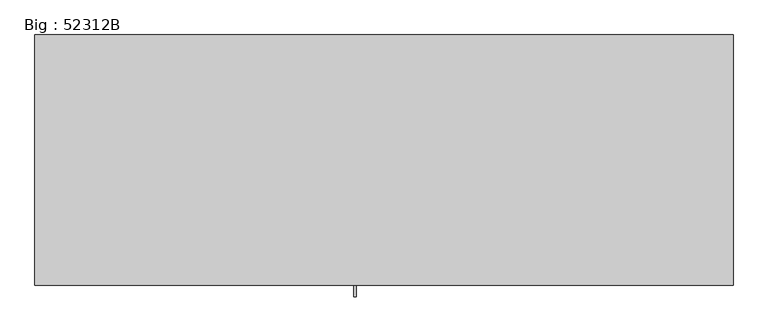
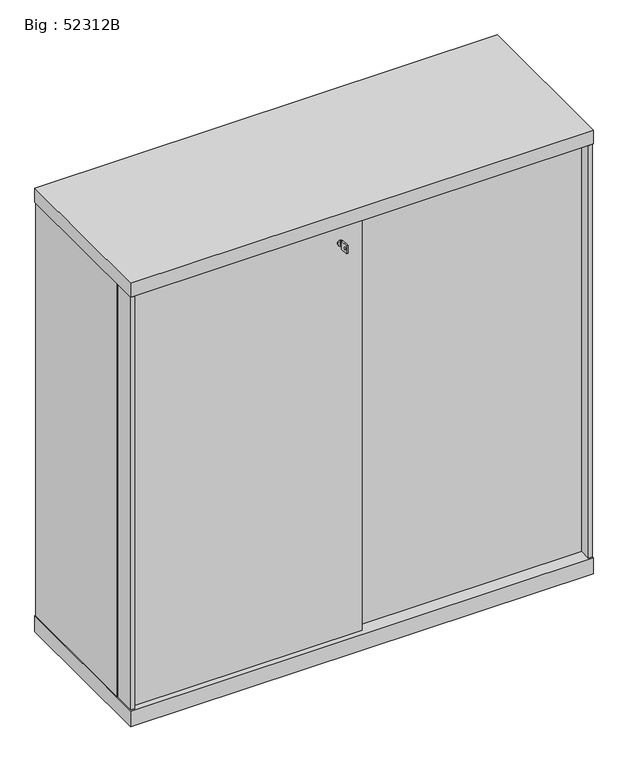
"""IFC4 building model written with IfcOpenShell, lengths in millimetres: furniture geometry, Big : 52312B."""

import ifcopenshell
import ifcopenshell.guid

model = None  # the IFC model being written
_history = None  # IfcOwnerHistory: only IFC2X3 demands one
_inside = {}  # id of a spatial element -> (the spatial element, [elements in it])
_under = {}  # id of a project, library or spatial element -> (it, [spatial elements below it])
_declared = {}  # id of a project -> (the project, [libraries it declares])
_typed = {}  # id of a type object -> (the type object, [elements of that type])
_made_of = {}  # id of a material, layer set ... -> (it, [elements and type objects made of it])


def new_model(schema):
    """Start an empty IFC model of exactly this schema.

    Asked for "IFC4X3", IfcOpenShell would pick the latest addendum, in which some entities
    have other attributes; the version numbers below select the first issue.
    IFC2X3 requires an IfcOwnerHistory on every rooted entity: one is made here for all.
    """
    global model, _history
    if schema == "IFC4X3":
        model = ifcopenshell.file(schema_version=(4, 3, 0, 0))
    else:
        model = ifcopenshell.file(schema=schema)
    _inside.clear()
    _under.clear()
    _declared.clear()
    _typed.clear()
    _made_of.clear()
    _history = None
    if model.schema == "IFC2X3":
        org = make("IfcOrganization", Name="unknown")
        user = make(
            "IfcPersonAndOrganization",
            ThePerson=make("IfcPerson", FamilyName="unknown"),
            TheOrganization=org,
        )
        app = make(
            "IfcApplication",
            ApplicationDeveloper=org,
            Version="unknown",
            ApplicationFullName="unknown",
            ApplicationIdentifier="unknown",
        )
        _history = make(
            "IfcOwnerHistory",
            OwningUser=user,
            OwningApplication=app,
            ChangeAction="ADDED",
            CreationDate=0,
        )
    return model


def make(cls, **values):
    """One entity of the class cls with the attributes given. An attribute that is None is left unset."""
    return model.create_entity(
        cls, **{name: value for name, value in values.items() if value is not None}
    )


def rooted(cls, **values):
    """An entity with a GlobalId (a new one), such as an element, a storey or a relation."""
    return make(cls, GlobalId=ifcopenshell.guid.new(), OwnerHistory=_history, **values)


def si_unit(unit_type, name, prefix=None):
    """IfcSIUnit, for example si_unit("LENGTHUNIT", "METRE", prefix="MILLI")."""
    return make("IfcSIUnit", UnitType=unit_type, Prefix=prefix, Name=name)


def assignment(units):
    """IfcUnitAssignment: the units of a project."""
    return None if units is None else make("IfcUnitAssignment", Units=units)


def point(xyz):
    """IfcCartesianPoint."""
    return None if xyz is None else make("IfcCartesianPoint", Coordinates=xyz)


def direction(xyz):
    """IfcDirection."""
    return None if xyz is None else make("IfcDirection", DirectionRatios=xyz)


def frame(location, z_axis=None, x_axis=None):
    """IfcAxis2Placement3D, a coordinate frame: its origin and axes. An axis left out is left unset."""
    return make(
        "IfcAxis2Placement3D",
        Location=point(location),
        Axis=direction(z_axis),
        RefDirection=direction(x_axis),
    )


def frame_2d(location, x_axis=None):
    """IfcAxis2Placement2D, a coordinate frame in the plane: its origin and x axis."""
    return make(
        "IfcAxis2Placement2D", Location=point(location), RefDirection=direction(x_axis)
    )


def origin():
    """The frame at (0, 0, 0) with its axes left unset."""
    return frame((0.0, 0.0, 0.0))


def origin_with_axes():
    """The frame at (0, 0, 0) with the z axis (0, 0, 1) and the x axis (1, 0, 0) written out."""
    return frame((0.0, 0.0, 0.0), z_axis=(0.0, 0.0, 1.0), x_axis=(1.0, 0.0, 0.0))


def place(relative_to, where):
    """IfcLocalPlacement: puts the frame where relative to a parent placement (None: the world)."""
    return make(
        "IfcLocalPlacement", PlacementRelTo=relative_to, RelativePlacement=where
    )


def context(
    kind, dimensions, precision=None, world=None, true_north=None, identifier=None
):
    """IfcGeometricRepresentationContext, for example the 3D "Model" context."""
    return make(
        "IfcGeometricRepresentationContext",
        ContextIdentifier=identifier,
        ContextType=kind,
        CoordinateSpaceDimension=dimensions,
        Precision=precision,
        WorldCoordinateSystem=world,
        TrueNorth=true_north,
    )


def project(units=None, contexts=None):
    """IfcProject with its units and contexts."""
    return rooted(
        "IfcProject",
        Name="project",
        RepresentationContexts=contexts,
        UnitsInContext=assignment(units),
    )


def spatial(cls, under=None, at=None, **own):
    """A site, building, storey or space (cls), placed at a placement, below another one or the project."""
    s = rooted(cls, ObjectPlacement=at, **own)
    if under is not None:
        _under.setdefault(under.id(), (under, []))[1].append(s)
    return s


def polyline(points):
    """IfcPolyline through the points."""
    return make("IfcPolyline", Points=[point(p) for p in points])


def circle_curve(where, radius):
    """IfcCircle in the frame where."""
    return make("IfcCircle", Position=where, Radius=radius)


def trimmed(basis, trim1, trim2, sense, master):
    """IfcTrimmedCurve: the piece of a basis curve between two trims."""
    return make(
        "IfcTrimmedCurve",
        BasisCurve=basis,
        Trim1=trim1,
        Trim2=trim2,
        SenseAgreement=sense,
        MasterRepresentation=master,
    )


def segment(curve, same_sense, transition):
    """IfcCompositeCurveSegment."""
    return make(
        "IfcCompositeCurveSegment",
        Transition=transition,
        SameSense=same_sense,
        ParentCurve=curve,
    )


def composite_curve(segments, self_intersect=None):
    """IfcCompositeCurve: segments joined end to end."""
    return make("IfcCompositeCurve", Segments=segments, SelfIntersect=self_intersect)


def outline(outer, holes=None, kind="AREA"):
    """IfcArbitraryClosedProfileDef: a profile drawn as a closed curve; with holes, ...WithVoids."""
    if holes is None:
        return make("IfcArbitraryClosedProfileDef", ProfileType=kind, OuterCurve=outer)
    return make(
        "IfcArbitraryProfileDefWithVoids",
        ProfileType=kind,
        OuterCurve=outer,
        InnerCurves=holes,
    )


def extrude(swept, where, along, depth):
    """IfcExtrudedAreaSolid: the profile swept, set in the frame where, extruded along a direction by depth."""
    return make(
        "IfcExtrudedAreaSolid",
        SweptArea=swept,
        Position=where,
        ExtrudedDirection=direction(along),
        Depth=depth,
    )


def shape(context_of_items, identifier, shape_type, items):
    """IfcShapeRepresentation: the items that make up one representation, for example the "Body"."""
    return make(
        "IfcShapeRepresentation",
        ContextOfItems=context_of_items,
        RepresentationIdentifier=identifier,
        RepresentationType=shape_type,
        Items=items,
    )


def source(mapping_origin, context_of_items, identifier, shape_type, items):
    """IfcRepresentationMap: a shape defined once, which mapped items show again and again."""
    return make(
        "IfcRepresentationMap",
        MappingOrigin=mapping_origin,
        MappedRepresentation=shape(context_of_items, identifier, shape_type, items),
    )


def transform(
    local_origin,
    x_axis=None,
    y_axis=None,
    z_axis=None,
    scale=None,
    scale2=None,
    scale3=None,
    uniform=True,
):
    """IfcCartesianTransformationOperator3D, or its non-uniform kind. x_axis, y_axis, z_axis: its Axis1, 2, 3."""
    if uniform:
        return make(
            "IfcCartesianTransformationOperator3D",
            Axis1=direction(x_axis),
            Axis2=direction(y_axis),
            LocalOrigin=point(local_origin),
            Scale=scale,
            Axis3=direction(z_axis),
        )
    return make(
        "IfcCartesianTransformationOperator3DnonUniform",
        Axis1=direction(x_axis),
        Axis2=direction(y_axis),
        LocalOrigin=point(local_origin),
        Scale=scale,
        Axis3=direction(z_axis),
        Scale2=scale2,
        Scale3=scale3,
    )


def mapped(mapping_source, mapping_target):
    """IfcMappedItem: shows the shape of a source again, moved by a transform."""
    return make(
        "IfcMappedItem", MappingSource=mapping_source, MappingTarget=mapping_target
    )


def made_of(thing, what):
    """Note that an element or type object is made of a material, layer set ...; save() writes the relation."""
    if what is not None:
        _made_of.setdefault(what.id(), (what, []))[1].append(thing)
    return thing


def element(
    cls,
    number,
    at=None,
    inside=None,
    cuts=None,
    type_object=None,
    material=None,
    context=None,
    identifier="Body",
    shape_type=None,
    held_by="IfcProductDefinitionShape",
    body=None,
    shapes=None,
    **own,
):
    """One element of the class cls, such as IfcWall. Its Tag is "e" and its number.

    at: its placement. inside: the storey or other place that contains it. cuts: it is an
    opening in that element (IfcRelVoidsElement). A single representation is given by context,
    identifier, shape_type and body (its items); several are given by shapes. held_by: the class
    of the entity that holds the representations. save() writes the other relations.
    """
    e = rooted(cls, Tag="e%d" % number, ObjectPlacement=at, **own)
    if body is not None:
        shapes = [shape(context, identifier, shape_type, body)]
    if shapes is not None:
        e.Representation = make(held_by, Representations=shapes)
    if inside is not None:
        _inside.setdefault(inside.id(), (inside, []))[1].append(e)
    if cuts is not None:
        rooted(
            "IfcRelVoidsElement", RelatingBuildingElement=cuts, RelatedOpeningElement=e
        )
    if type_object is not None:
        _typed.setdefault(type_object.id(), (type_object, []))[1].append(e)
    return made_of(e, material)


def aggregate(whole, parts):
    """IfcRelAggregates: a whole, such as a stair, and the parts it consists of."""
    return rooted("IfcRelAggregates", RelatingObject=whole, RelatedObjects=parts)


def save(model, path):
    """Write the relations noted so far, then the file.

    IfcRelAggregates (storeys below a building ...), IfcRelContainedInSpatialStructure (elements
    in a storey), IfcRelDefinesByType, IfcRelAssociatesMaterial and IfcRelDeclares: one each for
    every whole, place, type object, material and project.
    """
    for whole, parts in _under.values():
        aggregate(whole, parts)
    for where, things in _inside.values():
        rooted(
            "IfcRelContainedInSpatialStructure",
            RelatedElements=things,
            RelatingStructure=where,
        )
    for kind, things in _typed.values():
        rooted("IfcRelDefinesByType", RelatedObjects=things, RelatingType=kind)
    for what, things in _made_of.values():
        rooted("IfcRelAssociatesMaterial", RelatedObjects=things, RelatingMaterial=what)
    for by, libraries in _declared.values():
        rooted("IfcRelDeclares", RelatingContext=by, RelatedDefinitions=libraries)
    model.write(path)


def big_52312b_db626a77(model_context):
    return source(origin(), model_context, "Body", "SweptSolid", [
        extrude(outline(polyline([(-20.0, 1121.014113), (-20.0, 1143.0), (2.0, 1143.0), (2.0, 1121.014113), (-20.0, 1121.014113)]), holes=[composite_curve([segment(trimmed(circle_curve(frame_2d((-13.75, 1132.0070565)), 3.2230706), [point((-13.75, 1135.2301271))], [point((-13.75, 1128.7839859))], True, "CARTESIAN"), True, "CONTINUOUS"), segment(trimmed(circle_curve(frame_2d((-13.75, 1132.0070565)), 3.2230706), [point((-13.75, 1128.7839859))], [point((-13.75, 1135.2301271))], True, "CARTESIAN"), True, "CONTINUOUS")], self_intersect=False)]), frame((-52.0, 0.0, 0.0), z_axis=(1.0, 0.0, 0.0), x_axis=(0.0, 1.0, 0.0)), (0.0, 0.0, 1.0), 4.0416064),
        extrude(outline(polyline([(-48.9583936, 2.0), (-51.0, 2.0), (-51.0, 8.0), (-48.9583936, 8.0), (-48.9583936, 2.0)])), frame((0.0, 0.0, 1128.014113), z_axis=(0.0, 0.0, 1.0), x_axis=(1.0, 0.0, 0.0)), (0.0, 0.0, 1.0), 7.985887),
        extrude(outline(composite_curve([segment(trimmed(circle_curve(frame_2d((1132.0, -50.0)), 7.0), [point((1132.0, -57.0))], [point((1132.0, -43.0))], False, "CARTESIAN"), True, "CONTINUOUS"), segment(trimmed(circle_curve(frame_2d((1132.0, -50.0)), 7.0), [point((1132.0, -43.0))], [point((1132.0, -57.0))], False, "CARTESIAN"), True, "CONTINUOUS")], self_intersect=False)), frame((0.0, 8.0, 0.0), z_axis=(0.0, 1.0, 0.0), x_axis=(0.0, 0.0, 1.0)), (0.0, 0.0, 1.0), 4.0),
        extrude(outline(polyline([(598.5, 2.0), (588.5, 2.0), (588.5, 32.0), (-6.5, 32.0), (-6.5, 48.0), (588.5, 48.0), (588.5, 58.0), (598.5, 58.0), (598.5, 2.0)])), frame((0.0, 0.0, 50.0), z_axis=(0.0, 0.0, 1.0), x_axis=(1.0, 0.0, 0.0)), (0.0, 0.0, 1.0), 1130.0),
        extrude(outline(polyline([(-598.5, 2.0), (-598.5, 58.0), (-588.5, 58.0), (-588.5, 28.0), (6.5, 28.0), (6.5, 12.0), (-588.5, 12.0), (-588.5, 2.0), (-598.5, 2.0)])), frame((0.0, 0.0, 50.0), z_axis=(0.0, 0.0, 1.0), x_axis=(1.0, 0.0, 0.0)), (0.0, 0.0, 1.0), 1130.0),
        extrude(outline(polyline([(600.0, 0.0), (-600.0, 0.0), (-600.0, 430.0), (600.0, 430.0), (600.0, 0.0)])), frame((0.0, 0.0, 5.0), z_axis=(0.0, 0.0, 1.0), x_axis=(1.0, 0.0, 0.0)), (0.0, 0.0, 1.0), 43.0),
        extrude(outline(polyline([(580.5000002, 428.0), (598.5, 428.0), (598.5, 62.0), (580.5000002, 62.0), (580.5000002, 428.0)])), frame((0.0, 0.0, 48.0), z_axis=(0.0, 0.0, 1.0), x_axis=(1.0, 0.0, 0.0)), (0.0, 0.0, 1.0), 1134.0),
        extrude(outline(polyline([(-580.5000002, 408.4999997), (-580.5000002, 420.9999997), (580.5000002, 420.9999997), (580.5000002, 408.4999997), (-580.5000002, 408.4999997)])), frame((0.0, 0.0, 48.0), z_axis=(0.0, 0.0, 1.0), x_axis=(1.0, 0.0, 0.0)), (0.0, 0.0, 1.0), 1134.0),
        extrude(outline(polyline([(-580.5000002, 428.0), (-580.5000002, 62.0), (-598.5, 62.0), (-598.5, 428.0), (-580.5000002, 428.0)])), frame((0.0, 0.0, 48.0), z_axis=(0.0, 0.0, 1.0), x_axis=(1.0, 0.0, 0.0)), (0.0, 0.0, 1.0), 1134.0),
        extrude(outline(polyline([(600.0, 0.0), (-600.0, 0.0), (-600.0, 430.0), (600.0, 430.0), (600.0, 0.0)])), frame((0.0, 0.0, 1182.0), z_axis=(0.0, 0.0, 1.0), x_axis=(1.0, 0.0, 0.0)), (0.0, 0.0, 1.0), 38.0),
        extrude(outline(composite_curve([segment(trimmed(circle_curve(frame_2d((-560.5000002, 336.0000021)), 20.0), [point((-580.5000002, 336.0000021))], [point((-540.5000002, 336.0000021))], False, "CARTESIAN"), True, "CONTINUOUS"), segment(trimmed(circle_curve(frame_2d((-560.5000002, 336.0000021)), 20.0), [point((-540.5000002, 336.0000021))], [point((-580.5000002, 336.0000021))], False, "CARTESIAN"), True, "CONTINUOUS")], self_intersect=False)), origin_with_axes(), (0.0, 0.0, 1.0), 5.0),
        extrude(outline(composite_curve([segment(trimmed(circle_curve(frame_2d((-560.5000002, 98.9999918)), 20.0), [point((-580.5000002, 98.9999918))], [point((-540.5000002, 98.9999918))], False, "CARTESIAN"), True, "CONTINUOUS"), segment(trimmed(circle_curve(frame_2d((-560.5000002, 98.9999918)), 20.0), [point((-540.5000002, 98.9999918))], [point((-580.5000002, 98.9999918))], False, "CARTESIAN"), True, "CONTINUOUS")], self_intersect=False)), origin_with_axes(), (0.0, 0.0, 1.0), 5.0),
        extrude(outline(composite_curve([segment(trimmed(circle_curve(frame_2d((560.5000002, 336.0000021)), 20.0), [point((540.5000002, 336.0000021))], [point((580.5000002, 336.0000021))], False, "CARTESIAN"), True, "CONTINUOUS"), segment(trimmed(circle_curve(frame_2d((560.5000002, 336.0000021)), 20.0), [point((580.5000002, 336.0000021))], [point((540.5000002, 336.0000021))], False, "CARTESIAN"), True, "CONTINUOUS")], self_intersect=False)), origin_with_axes(), (0.0, 0.0, 1.0), 5.0),
        extrude(outline(composite_curve([segment(trimmed(circle_curve(frame_2d((560.5000002, 98.9999918)), 20.0), [point((540.5000002, 98.9999918))], [point((580.5000002, 98.9999918))], False, "CARTESIAN"), True, "CONTINUOUS"), segment(trimmed(circle_curve(frame_2d((560.5000002, 98.9999918)), 20.0), [point((580.5000002, 98.9999918))], [point((540.5000002, 98.9999918))], False, "CARTESIAN"), True, "CONTINUOUS")], self_intersect=False)), origin_with_axes(), (0.0, 0.0, 1.0), 5.0),
    ])


if __name__ == "__main__":
    model = new_model("IFC4")
    model_context = context("Model", 3, world=origin())
    ifc_project = project(units=[si_unit("LENGTHUNIT", "METRE", prefix="MILLI")], contexts=[model_context])
    site = spatial("IfcSite", under=ifc_project)
    building = spatial("IfcBuilding", under=site)
    placement = place(None, origin())
    big_52312b_shape = big_52312b_db626a77(model_context)
    element("IfcFurniture", 1, ObjectType="Big : 52312B", at=placement, inside=building, context=model_context, shape_type="MappedRepresentation", body=[
        mapped(big_52312b_shape, transform((0.0, 0.0, 0.0), x_axis=(1.0, 0.0, 0.0), y_axis=(0.0, 1.0, 0.0), z_axis=(0.0, 0.0, 1.0))),
    ])
    save(model, "model.ifc")
